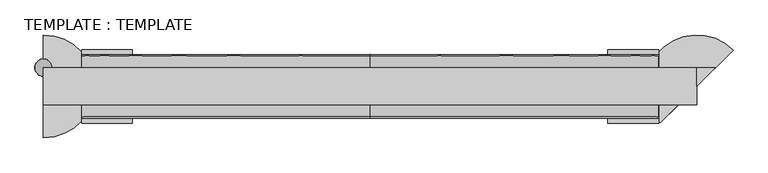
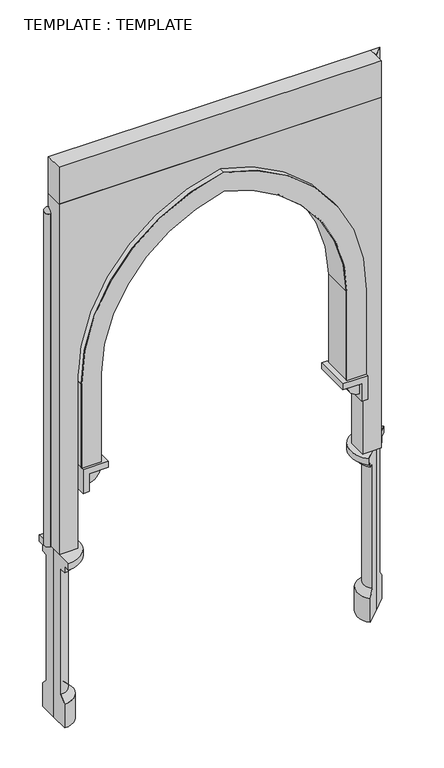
"""IFC4 building model written with IfcOpenShell, lengths in millimetres: plate geometry, TEMPLATE : TEMPLATE."""

import ifcopenshell
import ifcopenshell.guid

model = None  # the IFC model being written
_history = None  # IfcOwnerHistory: only IFC2X3 demands one
_inside = {}  # id of a spatial element -> (the spatial element, [elements in it])
_under = {}  # id of a project, library or spatial element -> (it, [spatial elements below it])
_declared = {}  # id of a project -> (the project, [libraries it declares])
_typed = {}  # id of a type object -> (the type object, [elements of that type])
_made_of = {}  # id of a material, layer set ... -> (it, [elements and type objects made of it])


def new_model(schema):
    """Start an empty IFC model of exactly this schema.

    Asked for "IFC4X3", IfcOpenShell would pick the latest addendum, in which some entities
    have other attributes; the version numbers below select the first issue.
    IFC2X3 requires an IfcOwnerHistory on every rooted entity: one is made here for all.
    """
    global model, _history
    if schema == "IFC4X3":
        model = ifcopenshell.file(schema_version=(4, 3, 0, 0))
    else:
        model = ifcopenshell.file(schema=schema)
    _inside.clear()
    _under.clear()
    _declared.clear()
    _typed.clear()
    _made_of.clear()
    _history = None
    if model.schema == "IFC2X3":
        org = make("IfcOrganization", Name="unknown")
        user = make(
            "IfcPersonAndOrganization",
            ThePerson=make("IfcPerson", FamilyName="unknown"),
            TheOrganization=org,
        )
        app = make(
            "IfcApplication",
            ApplicationDeveloper=org,
            Version="unknown",
            ApplicationFullName="unknown",
            ApplicationIdentifier="unknown",
        )
        _history = make(
            "IfcOwnerHistory",
            OwningUser=user,
            OwningApplication=app,
            ChangeAction="ADDED",
            CreationDate=0,
        )
    return model


def make(cls, **values):
    """One entity of the class cls with the attributes given. An attribute that is None is left unset."""
    return model.create_entity(
        cls, **{name: value for name, value in values.items() if value is not None}
    )


def rooted(cls, **values):
    """An entity with a GlobalId (a new one), such as an element, a storey or a relation."""
    return make(cls, GlobalId=ifcopenshell.guid.new(), OwnerHistory=_history, **values)


def si_unit(unit_type, name, prefix=None):
    """IfcSIUnit, for example si_unit("LENGTHUNIT", "METRE", prefix="MILLI")."""
    return make("IfcSIUnit", UnitType=unit_type, Prefix=prefix, Name=name)


def assignment(units):
    """IfcUnitAssignment: the units of a project."""
    return None if units is None else make("IfcUnitAssignment", Units=units)


def point(xyz):
    """IfcCartesianPoint."""
    return None if xyz is None else make("IfcCartesianPoint", Coordinates=xyz)


def direction(xyz):
    """IfcDirection."""
    return None if xyz is None else make("IfcDirection", DirectionRatios=xyz)


def frame(location, z_axis=None, x_axis=None):
    """IfcAxis2Placement3D, a coordinate frame: its origin and axes. An axis left out is left unset."""
    return make(
        "IfcAxis2Placement3D",
        Location=point(location),
        Axis=direction(z_axis),
        RefDirection=direction(x_axis),
    )


def frame_2d(location, x_axis=None):
    """IfcAxis2Placement2D, a coordinate frame in the plane: its origin and x axis."""
    return make(
        "IfcAxis2Placement2D", Location=point(location), RefDirection=direction(x_axis)
    )


def origin():
    """The frame at (0, 0, 0) with its axes left unset."""
    return frame((0.0, 0.0, 0.0))


def place(relative_to, where):
    """IfcLocalPlacement: puts the frame where relative to a parent placement (None: the world)."""
    return make(
        "IfcLocalPlacement", PlacementRelTo=relative_to, RelativePlacement=where
    )


def context(
    kind, dimensions, precision=None, world=None, true_north=None, identifier=None
):
    """IfcGeometricRepresentationContext, for example the 3D "Model" context."""
    return make(
        "IfcGeometricRepresentationContext",
        ContextIdentifier=identifier,
        ContextType=kind,
        CoordinateSpaceDimension=dimensions,
        Precision=precision,
        WorldCoordinateSystem=world,
        TrueNorth=true_north,
    )


def project(units=None, contexts=None):
    """IfcProject with its units and contexts."""
    return rooted(
        "IfcProject",
        Name="project",
        RepresentationContexts=contexts,
        UnitsInContext=assignment(units),
    )


def spatial(cls, under=None, at=None, **own):
    """A site, building, storey or space (cls), placed at a placement, below another one or the project."""
    s = rooted(cls, ObjectPlacement=at, **own)
    if under is not None:
        _under.setdefault(under.id(), (under, []))[1].append(s)
    return s


def polyline(points):
    """IfcPolyline through the points."""
    return make("IfcPolyline", Points=[point(p) for p in points])


def circle_curve(where, radius):
    """IfcCircle in the frame where."""
    return make("IfcCircle", Position=where, Radius=radius)


def ellipse_curve(where, semi_axis1, semi_axis2):
    """IfcEllipse in the frame where."""
    return make(
        "IfcEllipse", Position=where, SemiAxis1=semi_axis1, SemiAxis2=semi_axis2
    )


def trimmed(basis, trim1, trim2, sense, master):
    """IfcTrimmedCurve: the piece of a basis curve between two trims."""
    return make(
        "IfcTrimmedCurve",
        BasisCurve=basis,
        Trim1=trim1,
        Trim2=trim2,
        SenseAgreement=sense,
        MasterRepresentation=master,
    )


def segment(curve, same_sense, transition):
    """IfcCompositeCurveSegment."""
    return make(
        "IfcCompositeCurveSegment",
        Transition=transition,
        SameSense=same_sense,
        ParentCurve=curve,
    )


def composite_curve(segments, self_intersect=None):
    """IfcCompositeCurve: segments joined end to end."""
    return make("IfcCompositeCurve", Segments=segments, SelfIntersect=self_intersect)


def outline(outer, holes=None, kind="AREA"):
    """IfcArbitraryClosedProfileDef: a profile drawn as a closed curve; with holes, ...WithVoids."""
    if holes is None:
        return make("IfcArbitraryClosedProfileDef", ProfileType=kind, OuterCurve=outer)
    return make(
        "IfcArbitraryProfileDefWithVoids",
        ProfileType=kind,
        OuterCurve=outer,
        InnerCurves=holes,
    )


def extrude(swept, where, along, depth):
    """IfcExtrudedAreaSolid: the profile swept, set in the frame where, extruded along a direction by depth."""
    return make(
        "IfcExtrudedAreaSolid",
        SweptArea=swept,
        Position=where,
        ExtrudedDirection=direction(along),
        Depth=depth,
    )


def shape(context_of_items, identifier, shape_type, items):
    """IfcShapeRepresentation: the items that make up one representation, for example the "Body"."""
    return make(
        "IfcShapeRepresentation",
        ContextOfItems=context_of_items,
        RepresentationIdentifier=identifier,
        RepresentationType=shape_type,
        Items=items,
    )


def source(mapping_origin, context_of_items, identifier, shape_type, items):
    """IfcRepresentationMap: a shape defined once, which mapped items show again and again."""
    return make(
        "IfcRepresentationMap",
        MappingOrigin=mapping_origin,
        MappedRepresentation=shape(context_of_items, identifier, shape_type, items),
    )


def transform(
    local_origin,
    x_axis=None,
    y_axis=None,
    z_axis=None,
    scale=None,
    scale2=None,
    scale3=None,
    uniform=True,
):
    """IfcCartesianTransformationOperator3D, or its non-uniform kind. x_axis, y_axis, z_axis: its Axis1, 2, 3."""
    if uniform:
        return make(
            "IfcCartesianTransformationOperator3D",
            Axis1=direction(x_axis),
            Axis2=direction(y_axis),
            LocalOrigin=point(local_origin),
            Scale=scale,
            Axis3=direction(z_axis),
        )
    return make(
        "IfcCartesianTransformationOperator3DnonUniform",
        Axis1=direction(x_axis),
        Axis2=direction(y_axis),
        LocalOrigin=point(local_origin),
        Scale=scale,
        Axis3=direction(z_axis),
        Scale2=scale2,
        Scale3=scale3,
    )


def mapped(mapping_source, mapping_target):
    """IfcMappedItem: shows the shape of a source again, moved by a transform."""
    return make(
        "IfcMappedItem", MappingSource=mapping_source, MappingTarget=mapping_target
    )


def made_of(thing, what):
    """Note that an element or type object is made of a material, layer set ...; save() writes the relation."""
    if what is not None:
        _made_of.setdefault(what.id(), (what, []))[1].append(thing)
    return thing


def element(
    cls,
    number,
    at=None,
    inside=None,
    cuts=None,
    type_object=None,
    material=None,
    context=None,
    identifier="Body",
    shape_type=None,
    held_by="IfcProductDefinitionShape",
    body=None,
    shapes=None,
    **own,
):
    """One element of the class cls, such as IfcWall. Its Tag is "e" and its number.

    at: its placement. inside: the storey or other place that contains it. cuts: it is an
    opening in that element (IfcRelVoidsElement). A single representation is given by context,
    identifier, shape_type and body (its items); several are given by shapes. held_by: the class
    of the entity that holds the representations. save() writes the other relations.
    """
    e = rooted(cls, Tag="e%d" % number, ObjectPlacement=at, **own)
    if body is not None:
        shapes = [shape(context, identifier, shape_type, body)]
    if shapes is not None:
        e.Representation = make(held_by, Representations=shapes)
    if inside is not None:
        _inside.setdefault(inside.id(), (inside, []))[1].append(e)
    if cuts is not None:
        rooted(
            "IfcRelVoidsElement", RelatingBuildingElement=cuts, RelatedOpeningElement=e
        )
    if type_object is not None:
        _typed.setdefault(type_object.id(), (type_object, []))[1].append(e)
    return made_of(e, material)


def aggregate(whole, parts):
    """IfcRelAggregates: a whole, such as a stair, and the parts it consists of."""
    return rooted("IfcRelAggregates", RelatingObject=whole, RelatedObjects=parts)


def save(model, path):
    """Write the relations noted so far, then the file.

    IfcRelAggregates (storeys below a building ...), IfcRelContainedInSpatialStructure (elements
    in a storey), IfcRelDefinesByType, IfcRelAssociatesMaterial and IfcRelDeclares: one each for
    every whole, place, type object, material and project.
    """
    for whole, parts in _under.values():
        aggregate(whole, parts)
    for where, things in _inside.values():
        rooted(
            "IfcRelContainedInSpatialStructure",
            RelatedElements=things,
            RelatingStructure=where,
        )
    for kind, things in _typed.values():
        rooted("IfcRelDefinesByType", RelatedObjects=things, RelatingType=kind)
    for what, things in _made_of.values():
        rooted("IfcRelAssociatesMaterial", RelatedObjects=things, RelatingMaterial=what)
    for by, libraries in _declared.values():
        rooted("IfcRelDeclares", RelatingContext=by, RelatedDefinitions=libraries)
    model.write(path)


def plane_surface(at):
    """IfcPlane: the flat surface through the origin of the frame at, square to its z axis."""
    return make("IfcPlane", Position=at)


def cylinder_surface(at, radius):
    """IfcCylindricalSurface: all points at the distance radius from the z axis of the frame at."""
    return make("IfcCylindricalSurface", Position=at, Radius=radius)


def revolved_surface(curve, axis_point, axis_direction):
    """IfcSurfaceOfRevolution: the curve turned about the line through axis_point along axis_direction."""
    return make(
        "IfcSurfaceOfRevolution",
        SweptCurve=make("IfcArbitraryOpenProfileDef", ProfileType="CURVE", Curve=curve),
        AxisPosition=make("IfcAxis1Placement", Location=point(axis_point), Axis=direction(axis_direction)),
    )


def advanced_brep(points, edges, surfaces, faces):
    """IfcAdvancedBrep: a solid bounded by faces that lie on surfaces and meet in shared edges.

    An edge is (start, end): straight between two places in points (the first is 0);
    or (start, end, curve); or (start, end, curve, False) where it runs against its curve.
    A face is (place in surfaces, loops), or (place, loops, False) where it looks against
    its surface's normal. A loop lists edges by number (the first is 1), with a minus sign
    where the edge is run from its end to its start. The first loop is the outer one.
    """
    corners = [point(p) for p in points]
    vertices = [make("IfcVertexPoint", VertexGeometry=c) for c in corners]
    made = []
    for start, end, *more in edges:
        made.append(
            make(
                "IfcEdgeCurve",
                EdgeStart=vertices[start],
                EdgeEnd=vertices[end],
                EdgeGeometry=more[0] if more else make("IfcPolyline", Points=[corners[start], corners[end]]),
                SameSense=more[1] if len(more) > 1 else True,
            )
        )
    hull = []
    for where, loops, *sense in faces:
        bounds = []
        for j, loop in enumerate(loops):
            ring = [make("IfcOrientedEdge", EdgeElement=made[abs(k) - 1], Orientation=k > 0) for k in loop]
            bounds.append(
                make(
                    "IfcFaceOuterBound" if j == 0 else "IfcFaceBound",
                    Bound=make("IfcEdgeLoop", EdgeList=ring),
                    Orientation=True,
                )
            )
        hull.append(make("IfcAdvancedFace", Bounds=bounds, FaceSurface=surfaces[where], SameSense=sense[0] if sense else True))
    return make("IfcAdvancedBrep", Outer=make("IfcClosedShell", CfsFaces=hull))


def template_template_a2108bdb(model_context):
    return source(origin(), model_context, "Body", "SolidModel", [
        extrude(outline(polyline([(1321.2450521, 71.2450521), (1250.0, 0.0), (1250.0, 71.2450521), (1321.2450521, 71.2450521)])), frame((0.0, 0.0, 4250.0), z_axis=(0.0, 0.0, 1.0), x_axis=(1.0, 0.0, 0.0)), (0.0, 0.0, 1.0), 300.0),
        extrude(outline(polyline([(1250.0, -71.2450521), (-1250.0, -71.2450521), (-1250.0, 71.2450521), (1250.0, 71.2450521), (1250.0, -71.2450521)])), frame((0.0, 0.0, 4250.0), z_axis=(0.0, 0.0, 1.0), x_axis=(1.0, 0.0, 0.0)), (0.0, 0.0, 1.0), 300.0),
        advanced_brep(
        [(-1250.0, 38.7797743, 4103.90625), (-1250.0, 103.7103299, 4103.90625)],
        [
            (0, 1),
            (1, 0, circle_curve(frame((-1250.0, 71.2450521, 4103.90625), z_axis=(0.0, 0.0, -1.0), x_axis=(-1.0, 0.0, 0.0)), 32.4652778)),
            (0, 1, circle_curve(frame((-1250.0, 71.2450521, 4103.90625), z_axis=(0.0, 0.0, -1.0), x_axis=(1.0, 0.0, 0.0)), 32.4652778)),
        ],
        [
            plane_surface(frame((-1250.0, -122.2362565, 4103.90625), z_axis=(0.0, 0.0, -1.0), x_axis=(1.0, 0.0, 0.0))),
            plane_surface(frame((-1250.0, -122.2362565, 4103.90625), z_axis=(0.0, 0.0, -1.0), x_axis=(-1.0, 0.0, 0.0))),
            revolved_surface(trimmed(ellipse_curve(frame((-1250.0, 71.2450521, 4103.90625), z_axis=(0.0, 0.0, 1.0), x_axis=(-1.0, 0.0, 0.0)), 32.4652778, 32.4652778), [point((-1250.0, 38.7797743, 4103.90625))], [point((-1250.0, 103.7103299, 4103.90625))], True, "CARTESIAN"), (-1250.0, -122.2362565, 4103.90625), (0.0, 1.0, 0.0)),
        ],
        [
            (0, [[1, 2]]),
            (1, [[3, -1]]),
            (2, [[-2, -3]]),
        ],
    ),
        extrude(outline(composite_curve([segment(trimmed(circle_curve(frame_2d((-1250.0, 71.2450521)), 32.4652778), [point((-1250.0, 103.7103299))], [point((-1250.0, 38.7797743))], False, "CARTESIAN"), True, "CONTINUOUS"), segment(trimmed(circle_curve(frame_2d((-1250.0, 71.2450521)), 32.4652778), [point((-1250.0, 38.7797743))], [point((-1250.0, 103.7103299))], False, "CARTESIAN"), True, "CONTINUOUS")], self_intersect=False)), frame((0.0, 0.0, 1375.0), z_axis=(0.0, 0.0, 1.0), x_axis=(1.0, 0.0, 0.0)), (0.0, 0.0, 1.0), 2728.90625),
        extrude(outline(composite_curve([segment(polyline([(2062.5, -1103.90625), (2062.5, -952.8125), (2789.7201638, -952.8125)]), True, "CONTINUOUS"), segment(trimmed(circle_curve(frame_2d((2770.9553186, 249.8536177)), 1202.8125), [point((2789.7201638, -952.8125))], [point((3947.5313169, 0.0))], True, "CARTESIAN"), True, "CONTINUOUS"), segment(trimmed(circle_curve(frame_2d((2770.9553186, -249.8536177)), 1202.8125), [point((3947.5313169, 0.0))], [point((2789.7201638, 952.8125))], True, "CARTESIAN"), True, "CONTINUOUS"), segment(polyline([(2789.7201638, 952.8125), (2062.5, 952.8125), (2062.5, 1103.90625), (2751.0466695, 1103.90625)]), True, "CONTINUOUS"), segment(trimmed(circle_curve(frame_2d((2770.9553186, -249.8536177)), 1353.90625), [point((2751.0466695, 1103.90625))], [point((4101.6075284, 0.0))], False, "CARTESIAN"), True, "CONTINUOUS"), segment(trimmed(circle_curve(frame_2d((2770.9553186, 249.8536177)), 1353.90625), [point((4101.6075284, 0.0))], [point((2751.0466695, -1103.90625))], False, "CARTESIAN"), True, "CONTINUOUS"), segment(polyline([(2751.0466695, -1103.90625), (2062.5, -1103.90625)]), True, "CONTINUOUS")], self_intersect=False)), frame((0.0, -121.8675781, 0.0), z_axis=(0.0, 1.0, 0.0), x_axis=(0.0, 0.0, 1.0)), (0.0, 0.0, 1.0), 5.0),
        extrude(outline(polyline([(1250.0, 0.0), (1250.0, 71.2450521), (1321.2450521, 71.2450521), (1250.0, 0.0)])), frame((0.0, 0.0, 1375.0), z_axis=(0.0, 0.0, 1.0), x_axis=(1.0, 0.0, 0.0)), (0.0, 0.0, 1.0), 2875.0),
        extrude(outline(composite_curve([segment(trimmed(circle_curve(frame_2d((2770.9553186, -249.8536177)), 1207.8125), [point((2789.7591277, 957.8125))], [point((3952.642335, 0.0))], False, "CARTESIAN"), True, "CONTINUOUS"), segment(trimmed(circle_curve(frame_2d((2770.9553186, 249.8536177)), 1207.8125), [point((3952.642335, 0.0))], [point((2789.7591277, -957.8125))], False, "CARTESIAN"), True, "CONTINUOUS"), segment(polyline([(2789.7591277, -957.8125), (2789.6812853, -952.813106)]), True, "CONTINUOUS"), segment(trimmed(circle_curve(frame_2d((2770.9553186, 249.8536177)), 1202.8125), [point((2789.6812853, -952.813106))], [point((3947.5313169, 0.0))], True, "CARTESIAN"), True, "CONTINUOUS"), segment(trimmed(circle_curve(frame_2d((2770.9553186, -249.8536177)), 1202.8125), [point((3947.5313169, 0.0))], [point((2789.6812853, 952.813106))], True, "CARTESIAN"), True, "CONTINUOUS"), segment(polyline([(2789.6812853, 952.813106), (2789.7591277, 957.8125)]), True, "CONTINUOUS")], self_intersect=False)), frame((0.0, -116.8675781, 0.0), z_axis=(0.0, 1.0, 0.0), x_axis=(0.0, 0.0, 1.0)), (0.0, 0.0, 1.0), 238.7351563),
        extrude(outline(polyline([(957.8125, -116.8675781), (952.8125, -116.8675781), (952.8125, 121.8675781), (957.8125, 121.8675781), (957.8125, -116.8675781)])), frame((0.0, 0.0, 2062.5), z_axis=(0.0, 0.0, 1.0), x_axis=(1.0, 0.0, 0.0)), (0.0, 0.0, 1.0), 727.2591277),
        extrude(outline(polyline([(-952.8125, -116.8675781), (-957.8125, -116.8675781), (-957.8125, 121.8675781), (-952.8125, 121.8675781), (-952.8125, -116.8675781)])), frame((0.0, 0.0, 2062.5), z_axis=(0.0, 0.0, 1.0), x_axis=(1.0, 0.0, 0.0)), (0.0, 0.0, 1.0), 727.2591277),
        extrude(outline(composite_curve([segment(polyline([(2013.8020833, 1055.2083333), (2013.8020833, 957.8125)]), True, "CONTINUOUS"), segment(trimmed(circle_curve(frame_2d((2013.8020833, 1055.2083333)), 97.3958333), [point((2013.8020833, 957.8125))], [point((1916.40625, 1055.2083333))], False, "CARTESIAN"), True, "CONTINUOUS"), segment(polyline([(1916.40625, 1055.2083333), (2013.8020833, 1055.2083333)]), True, "CONTINUOUS")], self_intersect=False)), frame((0.0, -116.8675781, 0.0), z_axis=(0.0, 1.0, 0.0), x_axis=(0.0, 0.0, 1.0)), (0.0, 0.0, 1.0), 238.7351563),
        extrude(outline(composite_curve([segment(polyline([(2013.8020833, -1055.2083333), (1916.40625, -1055.2083333)]), True, "CONTINUOUS"), segment(trimmed(circle_curve(frame_2d((2013.8020833, -1055.2083333)), 97.3958333), [point((1916.40625, -1055.2083333))], [point((2013.8020833, -957.8125))], False, "CARTESIAN"), True, "CONTINUOUS"), segment(polyline([(2013.8020833, -957.8125), (2013.8020833, -1055.2083333)]), True, "CONTINUOUS")], self_intersect=False)), frame((0.0, -116.8675781, 0.0), z_axis=(0.0, 1.0, 0.0), x_axis=(0.0, 0.0, 1.0)), (0.0, 0.0, 1.0), 238.7351563),
        advanced_brep(
        [(-1250.0, -196.7395833, 1375.0), (-1250.0, 0.0, 1375.0), (-1250.0, 0.0, 0.0), (-1250.0, -146.09375, 0.0), (-1250.0, -146.09375, 194.7916667), (-1250.0, -97.3958333, 245.4375), (-1250.0, -97.3958333, 1273.7083333), (-1250.0, -146.09375, 1273.7083333), (-1250.0, -146.09375, 1324.3541667), (-1250.0, -196.7395833, 1324.3541667), (-1250.0, 196.7395833, 1375.0), (-1250.0, 196.7395833, 1324.3541667), (-1250.0, 146.09375, 1324.3541667), (-1250.0, 146.09375, 1273.7083333), (-1250.0, 97.3958333, 1273.7083333), (-1250.0, 97.3958333, 245.4375), (-1250.0, 146.09375, 194.7916667), (-1250.0, 146.09375, 0.0)],
        [
            (0, 1),
            (1, 2),
            (2, 3),
            (3, 4),
            (4, 5),
            (5, 6),
            (6, 7),
            (7, 8),
            (8, 9),
            (9, 0),
            (10, 11),
            (11, 12),
            (12, 13),
            (13, 14),
            (14, 15),
            (15, 16),
            (16, 17),
            (17, 2),
            (1, 10),
            (10, 0, circle_curve(frame((-1250.0, 0.0, 1375.0), z_axis=(0.0, 0.0, -1.0), x_axis=(0.0, -1.0000000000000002, 0.0)), 196.7395833)),
            (9, 11, circle_curve(frame((-1250.0, 0.0, 1324.3541667), z_axis=(0.0, 0.0, 1.0), x_axis=(0.0, -1.0000000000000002, 0.0)), 196.7395833)),
            (8, 12, circle_curve(frame((-1250.0, 0.0, 1324.3541667), z_axis=(0.0, 0.0, 1.0), x_axis=(0.0, -1.0000000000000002, 0.0)), 146.09375)),
            (7, 13, circle_curve(frame((-1250.0, 0.0, 1273.7083333), z_axis=(0.0, 0.0, 1.0), x_axis=(0.0, -1.0000000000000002, 0.0)), 146.09375)),
            (6, 14, circle_curve(frame((-1250.0, 0.0, 1273.7083333), z_axis=(0.0, 0.0, 1.0), x_axis=(0.0, -1.0000000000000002, 0.0)), 97.3958333)),
            (5, 15, circle_curve(frame((-1250.0, 0.0, 245.4375), z_axis=(0.0, 0.0, 1.0), x_axis=(0.0, -1.0000000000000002, 0.0)), 97.3958333)),
            (4, 16, circle_curve(frame((-1250.0, 0.0, 194.7916667), z_axis=(0.0, 0.0, 1.0), x_axis=(0.0, -1.0000000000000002, 0.0)), 146.09375)),
            (3, 17, circle_curve(frame((-1250.0, 0.0, 0.0), z_axis=(0.0, 0.0, 1.0), x_axis=(0.0, -1.0000000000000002, 0.0)), 146.09375)),
        ],
        [
            plane_surface(frame((-1250.0, 0.0, -1400.0), z_axis=(-1.0, 0.0, 0.0), x_axis=(0.0, -1.0, 0.0))),
            plane_surface(frame((-1250.0, 0.0, -1400.0), z_axis=(-1.0, 0.0, 0.0), x_axis=(0.0, 1.0, 0.0))),
            cylinder_surface(frame((-1250.0, 0.0, -1400.0), z_axis=(0.0, 0.0, 1.0), x_axis=(0.0, -1.0000000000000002, 0.0)), 196.7395833),
            plane_surface(frame((-1250.0, 0.0, 1324.3541667), z_axis=(0.0, 0.0, -1.0), x_axis=(0.0, -1.0, 0.0))),
            cylinder_surface(frame((-1250.0, 0.0, -1400.0), z_axis=(0.0, 0.0, 1.0), x_axis=(0.0, -1.0000000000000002, 0.0)), 146.09375),
            plane_surface(frame((-1250.0, 0.0, 1273.7083333), z_axis=(0.0, 0.0, -1.0), x_axis=(0.0, -1.0, 0.0))),
            cylinder_surface(frame((-1250.0, 0.0, -1400.0), z_axis=(0.0, 0.0, 1.0), x_axis=(0.0, -1.0000000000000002, 0.0)), 97.3958333),
            revolved_surface(polyline([(-1250.0, -146.09375, 194.7916667), (-1250.0, -97.3958333, 245.4375)]), (-1250.0, 0.0, -1400.0), (0.0, 0.0, 1.0)),
            plane_surface(frame((-1250.0, 0.0, 0.0), z_axis=(0.0, 0.0, -1.0), x_axis=(0.0, -1.0, 0.0))),
            plane_surface(frame((-1250.0, 0.0, 1375.0), z_axis=(0.0, 0.0, 1.0), x_axis=(0.0, -1.0, 0.0))),
        ],
        [
            (0, [[1, 2, 3, 4, 5, 6, 7, 8, 9, 10]]),
            (1, [[11, 12, 13, 14, 15, 16, 17, 18, -2, 19]]),
            (2, [[20, -10, 21, -11]]),
            (3, [[-21, -9, 22, -12]]),
            (4, [[-22, -8, 23, -13]]),
            (5, [[-23, -7, 24, -14]]),
            (6, [[-24, -6, 25, -15]]),
            (7, [[-25, -5, 26, -16]]),
            (4, [[-26, -4, 27, -17]]),
            (8, [[-27, -3, -18]]),
            (9, [[-1, -20, -19]]),
        ],
    ),
        extrude(outline(polyline([(2062.5, 1103.90625), (2062.5, 909.1145833), (2013.8020833, 909.1145833), (2013.8020833, 1055.2083333), (1867.7083333, 1055.2083333), (1867.7083333, 1103.90625), (2062.5, 1103.90625)])), frame((0.0, -141.2165365, 0.0), z_axis=(0.0, 1.0, 0.0), x_axis=(0.0, 0.0, 1.0)), (0.0, 0.0, 1.0), 282.4330729),
        extrude(outline(polyline([(2062.5, -1103.90625), (1867.7083333, -1103.90625), (1867.7083333, -1055.2083333), (2013.8020833, -1055.2083333), (2013.8020833, -909.1145833), (2062.5, -909.1145833), (2062.5, -1103.90625)])), frame((0.0, -141.2165365, 0.0), z_axis=(0.0, 1.0, 0.0), x_axis=(0.0, 0.0, 1.0)), (0.0, 0.0, 1.0), 282.4330729),
        advanced_brep(
        [(1110.8841065, -139.1158935, 1375.0), (1110.8841065, -139.1158935, 1324.3541667), (1146.6961187, -103.3038813, 1324.3541667), (1146.6961187, -103.3038813, 1273.7083333), (1181.1307458, -68.8692542, 1273.7083333), (1181.1307458, -68.8692542, 245.4375), (1146.6961187, -103.3038813, 194.7916667), (1146.6961187, -103.3038813, 0.0), (1250.0, 0.0, 0.0), (1250.0, 0.0, 1375.0), (1389.1158935, 139.1158935, 1375.0), (1353.3038813, 103.3038813, 0.0), (1353.3038813, 103.3038813, 194.7916667), (1318.8692542, 68.8692542, 245.4375), (1318.8692542, 68.8692542, 1273.7083333), (1353.3038813, 103.3038813, 1273.7083333), (1353.3038813, 103.3038813, 1324.3541667), (1389.1158935, 139.1158935, 1324.3541667)],
        [
            (0, 1),
            (1, 2),
            (2, 3),
            (3, 4),
            (4, 5),
            (5, 6),
            (6, 7),
            (7, 8),
            (8, 9),
            (9, 0),
            (10, 9),
            (8, 11),
            (11, 12),
            (12, 13),
            (13, 14),
            (14, 15),
            (15, 16),
            (16, 17),
            (17, 10),
            (17, 1, circle_curve(frame((1250.0, 0.0, 1324.3541667), z_axis=(0.0, 0.0, 1.0), x_axis=(-0.7071067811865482, -0.707106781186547, 0.0)), 196.7395833)),
            (0, 10, circle_curve(frame((1250.0, 0.0, 1375.0), z_axis=(0.0, 0.0, -1.0), x_axis=(-0.7071067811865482, -0.707106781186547, 0.0)), 196.7395833)),
            (16, 2, circle_curve(frame((1250.0, 0.0, 1324.3541667), z_axis=(0.0, 0.0, 1.0), x_axis=(-0.7071067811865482, -0.707106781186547, 0.0)), 146.09375)),
            (15, 3, circle_curve(frame((1250.0, 0.0, 1273.7083333), z_axis=(0.0, 0.0, 1.0), x_axis=(-0.7071067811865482, -0.707106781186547, 0.0)), 146.09375)),
            (14, 4, circle_curve(frame((1250.0, 0.0, 1273.7083333), z_axis=(0.0, 0.0, 1.0), x_axis=(-0.7071067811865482, -0.707106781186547, 0.0)), 97.3958333)),
            (13, 5, circle_curve(frame((1250.0, 0.0, 245.4375), z_axis=(0.0, 0.0, 1.0), x_axis=(-0.7071067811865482, -0.707106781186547, 0.0)), 97.3958333)),
            (12, 6, circle_curve(frame((1250.0, 0.0, 194.7916667), z_axis=(0.0, 0.0, 1.0), x_axis=(-0.7071067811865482, -0.707106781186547, 0.0)), 146.09375)),
            (11, 7, circle_curve(frame((1250.0, 0.0, 0.0), z_axis=(0.0, 0.0, 1.0), x_axis=(-0.7071067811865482, -0.707106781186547, 0.0)), 146.09375)),
        ],
        [
            plane_surface(frame((1250.0, 0.0, -1400.0), z_axis=(0.707106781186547, -0.7071067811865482, 0.0), x_axis=(-0.7071067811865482, -0.707106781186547, 0.0))),
            plane_surface(frame((1250.0, 0.0, -1400.0), z_axis=(0.7071067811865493, -0.7071067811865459, 0.0), x_axis=(0.7071067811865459, 0.7071067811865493, 0.0))),
            cylinder_surface(frame((1250.0, 0.0, -1400.0), z_axis=(0.0, 0.0, -1.0), x_axis=(-0.7071067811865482, -0.707106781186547, 0.0)), 196.7395833),
            plane_surface(frame((1250.0, 0.0, 1324.3541667), z_axis=(0.0, 0.0, -1.0000000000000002), x_axis=(-0.7071067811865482, -0.707106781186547, 0.0))),
            cylinder_surface(frame((1250.0, 0.0, -1400.0), z_axis=(0.0, 0.0, -1.0), x_axis=(-0.7071067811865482, -0.707106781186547, 0.0)), 146.09375),
            plane_surface(frame((1250.0, 0.0, 1273.7083333), z_axis=(0.0, 0.0, -1.0000000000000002), x_axis=(-0.7071067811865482, -0.707106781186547, 0.0))),
            cylinder_surface(frame((1250.0, 0.0, -1400.0), z_axis=(0.0, 0.0, -1.0), x_axis=(-0.7071067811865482, -0.707106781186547, 0.0)), 97.3958333),
            revolved_surface(polyline([(1181.1307458, -68.8692542, 245.4375), (1146.6961187, -103.3038813, 194.7916667)]), (1250.0, 0.0, -1400.0), (0.0, 0.0, -1.0)),
            plane_surface(frame((1250.0, 0.0, 0.0), z_axis=(0.0, 0.0, -1.0000000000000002), x_axis=(-0.7071067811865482, -0.707106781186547, 0.0))),
            plane_surface(frame((1250.0, 0.0, 1375.0), z_axis=(0.0, 0.0, 1.0000000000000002), x_axis=(-0.7071067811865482, -0.707106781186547, 0.0))),
        ],
        [
            (0, [[1, 2, 3, 4, 5, 6, 7, 8, 9, 10]]),
            (1, [[11, -9, 12, 13, 14, 15, 16, 17, 18, 19]]),
            (2, [[20, -1, 21, -19]]),
            (3, [[22, -2, -20, -18]]),
            (4, [[23, -3, -22, -17]]),
            (5, [[24, -4, -23, -16]]),
            (6, [[25, -5, -24, -15]]),
            (7, [[26, -6, -25, -14]]),
            (4, [[27, -7, -26, -13]]),
            (8, [[-8, -27, -12]]),
            (9, [[-21, -10, -11]]),
        ],
    ),
        extrude(outline(composite_curve([segment(polyline([(1375.0, 1250.0), (4250.0, 1250.0), (4250.0, -1250.0), (1375.0, -1250.0), (1375.0, -1103.90625), (2790.8639676, -1103.90625)]), True, "CONTINUOUS"), segment(trimmed(circle_curve(frame_2d((2770.9553186, 249.8536177)), 1353.90625), [point((2790.8639676, -1103.90625))], [point((4101.6075284, 0.0))], True, "CARTESIAN"), True, "CONTINUOUS"), segment(trimmed(circle_curve(frame_2d((2770.9553186, -249.8536177)), 1353.90625), [point((4101.6075284, 0.0))], [point((2790.8639676, 1103.90625))], True, "CARTESIAN"), True, "CONTINUOUS"), segment(polyline([(2790.8639676, 1103.90625), (1375.0, 1103.90625), (1375.0, 1250.0)]), True, "CONTINUOUS")], self_intersect=False)), frame((0.0, -71.2450521, 0.0), z_axis=(0.0, 1.0, 0.0), x_axis=(0.0, 0.0, 1.0)), (0.0, 0.0, 1.0), 142.4901042),
        extrude(outline(composite_curve([segment(trimmed(circle_curve(frame_2d((2770.9553186, 249.8536177)), 1353.90625), [point((4101.6075284, 0.0))], [point((2790.8639676, -1103.90625))], False, "CARTESIAN"), True, "CONTINUOUS"), segment(polyline([(2790.8639676, -1103.90625), (2062.5, -1103.90625), (2062.5, -957.8125), (2789.7591277, -957.8125)]), True, "CONTINUOUS"), segment(trimmed(circle_curve(frame_2d((2770.9553186, 249.8536177)), 1207.8125), [point((2789.7591277, -957.8125))], [point((3952.642335, 0.0))], True, "CARTESIAN"), True, "CONTINUOUS"), segment(trimmed(circle_curve(frame_2d((2770.9553186, -249.8536177)), 1207.8125), [point((3952.642335, 0.0))], [point((2789.7591277, 957.8125))], True, "CARTESIAN"), True, "CONTINUOUS"), segment(polyline([(2789.7591277, 957.8125), (2062.5, 957.8125), (2062.5, 1103.90625), (2790.8639676, 1103.90625)]), True, "CONTINUOUS"), segment(trimmed(circle_curve(frame_2d((2770.9553186, -249.8536177)), 1353.90625), [point((2790.8639676, 1103.90625))], [point((4101.6075284, 0.0))], False, "CARTESIAN"), True, "CONTINUOUS")], self_intersect=False)), frame((0.0, 116.8675781, 0.0), z_axis=(0.0, 1.0, 0.0), x_axis=(0.0, 0.0, 1.0)), (0.0, 0.0, 1.0), 5.0),
        extrude(outline(polyline([(-957.8125, 116.8675781), (-957.8125, -116.8675781), (-1103.90625, -116.8675781), (-1103.90625, 116.8675781), (-957.8125, 116.8675781)])), frame((0.0, 0.0, 2062.5), z_axis=(0.0, 0.0, 1.0), x_axis=(1.0, 0.0, 0.0)), (0.0, 0.0, 1.0), 687.5),
        extrude(outline(polyline([(957.8125, 116.8675781), (1103.90625, 116.8675781), (1103.90625, -116.8675781), (957.8125, -116.8675781), (957.8125, 116.8675781)])), frame((0.0, 0.0, 2062.5), z_axis=(0.0, 0.0, 1.0), x_axis=(1.0, 0.0, 0.0)), (0.0, 0.0, 1.0), 687.5),
        extrude(outline(composite_curve([segment(trimmed(circle_curve(frame_2d((2770.9553186, 249.8536177)), 1207.8125), [point((2754.0819214, -957.841014))], [point((3952.642335, 0.0))], True, "CARTESIAN"), True, "CONTINUOUS"), segment(trimmed(circle_curve(frame_2d((2770.9553186, -249.8536177)), 1207.8125), [point((3952.642335, 0.0))], [point((2754.0819214, 957.841014))], True, "CARTESIAN"), True, "CONTINUOUS"), segment(polyline([(2754.0819214, 957.841014), (2752.0409607, 1103.920507)]), True, "CONTINUOUS"), segment(trimmed(circle_curve(frame_2d((2770.9553186, -249.8536177)), 1353.90625), [point((2752.0409607, 1103.920507))], [point((4101.6075284, 0.0))], False, "CARTESIAN"), True, "CONTINUOUS"), segment(trimmed(circle_curve(frame_2d((2770.9553186, 249.8536177)), 1353.90625), [point((4101.6075284, 0.0))], [point((2752.0409607, -1103.920507))], False, "CARTESIAN"), True, "CONTINUOUS"), segment(polyline([(2752.0409607, -1103.920507), (2754.0819214, -957.841014)]), True, "CONTINUOUS")], self_intersect=False)), frame((0.0, -116.8675781, 0.0), z_axis=(0.0, 1.0, 0.0), x_axis=(0.0, 0.0, 1.0)), (0.0, 0.0, 1.0), 233.7351563),
    ])


if __name__ == "__main__":
    model = new_model("IFC4")
    model_context = context("Model", 3, world=origin())
    ifc_project = project(units=[si_unit("LENGTHUNIT", "METRE", prefix="MILLI")], contexts=[model_context])
    site = spatial("IfcSite", under=ifc_project)
    building = spatial("IfcBuilding", under=site)
    placement = place(None, origin())
    template_template_shape = template_template_a2108bdb(model_context)
    element("IfcPlate", 1, ObjectType="TEMPLATE : TEMPLATE", at=placement, inside=building, context=model_context, shape_type="MappedRepresentation", body=[
        mapped(template_template_shape, transform((0.0, 0.0, 0.0), x_axis=(1.0, 0.0, 0.0), y_axis=(0.0, 1.0, 0.0), z_axis=(0.0, 0.0, 1.0))),
    ])
    save(model, "model.ifc")
